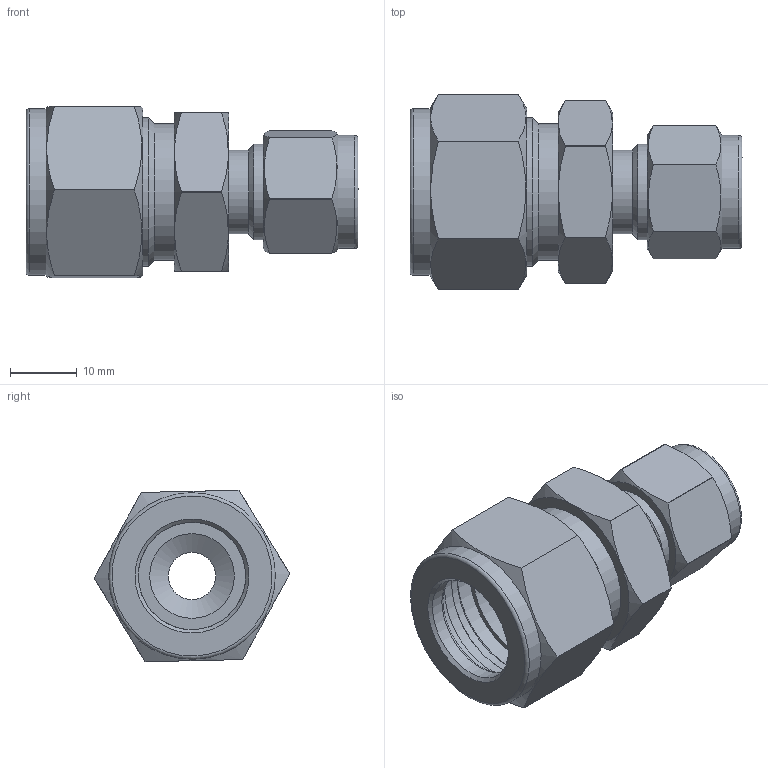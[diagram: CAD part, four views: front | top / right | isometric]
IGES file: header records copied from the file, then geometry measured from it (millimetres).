
Global section: file name: No Iges File Name specified; native system: Autodesk Inventor 2012; preprocessor: AutoDesk Inventor Iges Exporter R2012; author: 硅己绕,,1; organization: 1; date: 20150428.085719; units: millimetre
Bounding box: 49.79 x 29.32 x 25.71 mm (x, y, z)
Volume: 10810.1 mm3; surface area: 8962.8 mm2
Topology: 3 solids, 3 shells, 90 faces, 196 edges, 121 vertices
Faces by surface type: plane 33, revolution 23, cylinder 20, cone 10, torus 4
Full cylindrical faces by diameter (mm): 12.5 x1, 12.55 x1, 14.28 x1, 17 x1, 20.4 x2, 22.22 x1, 25 x1
